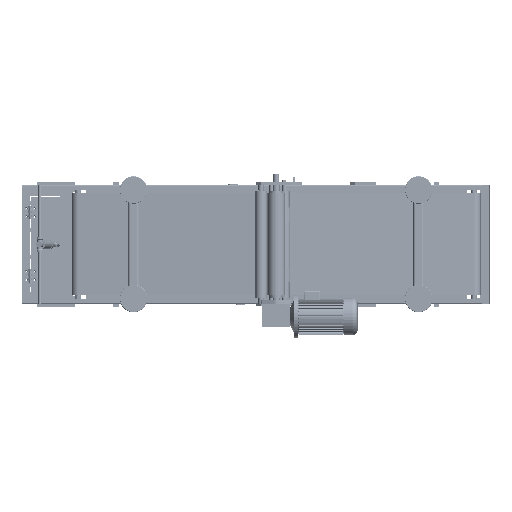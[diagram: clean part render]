
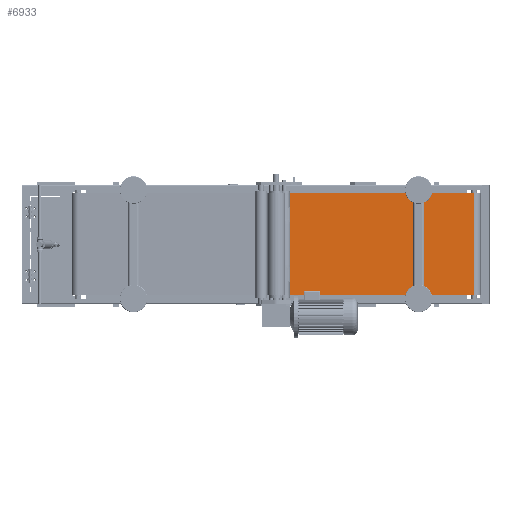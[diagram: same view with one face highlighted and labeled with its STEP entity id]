
A CAD part, front view. The second image highlights one B-rep face of the part: STEP entity #6933.
In plain terms, the highlighted planar face has unit normal (0.04, -0.999, 0).
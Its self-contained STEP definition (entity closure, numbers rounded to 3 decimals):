
#4203=PLANE('',#55485);
#6933=ADVANCED_FACE('',(#10505),#4203,.T.);
#10505=FACE_OUTER_BOUND('',#13327,.T.);
#13327=EDGE_LOOP('',(#31347,#31348,#31349,#31350));
#19096=LINE('',#88320,#22830);
#19108=LINE('',#88365,#22842);
#19120=LINE('',#88409,#22854);
#19127=LINE('',#88431,#22861);
#22830=VECTOR('',#62454,1.);
#22842=VECTOR('',#62496,1.);
#22854=VECTOR('',#62536,1.);
#22861=VECTOR('',#62557,1.);
#31347=ORIENTED_EDGE('',*,*,#48085,.T.);
#31348=ORIENTED_EDGE('',*,*,#48064,.F.);
#31349=ORIENTED_EDGE('',*,*,#48109,.F.);
#31350=ORIENTED_EDGE('',*,*,#48121,.T.);
#42064=VERTEX_POINT('',#88314);
#42067=VERTEX_POINT('',#88319);
#42086=VERTEX_POINT('',#88366);
#42103=VERTEX_POINT('',#88408);
#48064=EDGE_CURVE('',#42067,#42064,#19096,.T.);
#48085=EDGE_CURVE('',#42086,#42064,#19108,.T.);
#48109=EDGE_CURVE('',#42103,#42067,#19120,.T.);
#48121=EDGE_CURVE('',#42103,#42086,#19127,.T.);
#55485=AXIS2_PLACEMENT_3D('',#88432,#62558,#62559);
#62454=DIRECTION('',(0.,0.,-1.));
#62496=DIRECTION('',(0.999,0.04,0.));
#62536=DIRECTION('',(0.999,0.04,0.));
#62557=DIRECTION('',(0.,0.,-1.));
#62558=DIRECTION('',(0.04,-0.999,0.));
#62559=DIRECTION('',(-0.999,-0.04,0.));
#88314=CARTESIAN_POINT('',(1444.949,-23.481,-370.));
#88319=CARTESIAN_POINT('',(1444.949,-23.481,0.));
#88320=CARTESIAN_POINT('',(1444.949,-23.481,-370.));
#88365=CARTESIAN_POINT('',(751.032,-51.518,-370.));
#88366=CARTESIAN_POINT('',(751.032,-51.518,-370.));
#88408=CARTESIAN_POINT('',(751.032,-51.518,0.));
#88409=CARTESIAN_POINT('',(751.032,-51.518,0.));
#88431=CARTESIAN_POINT('',(751.032,-51.518,-370.));
#88432=CARTESIAN_POINT('',(751.032,-51.518,-370.));
